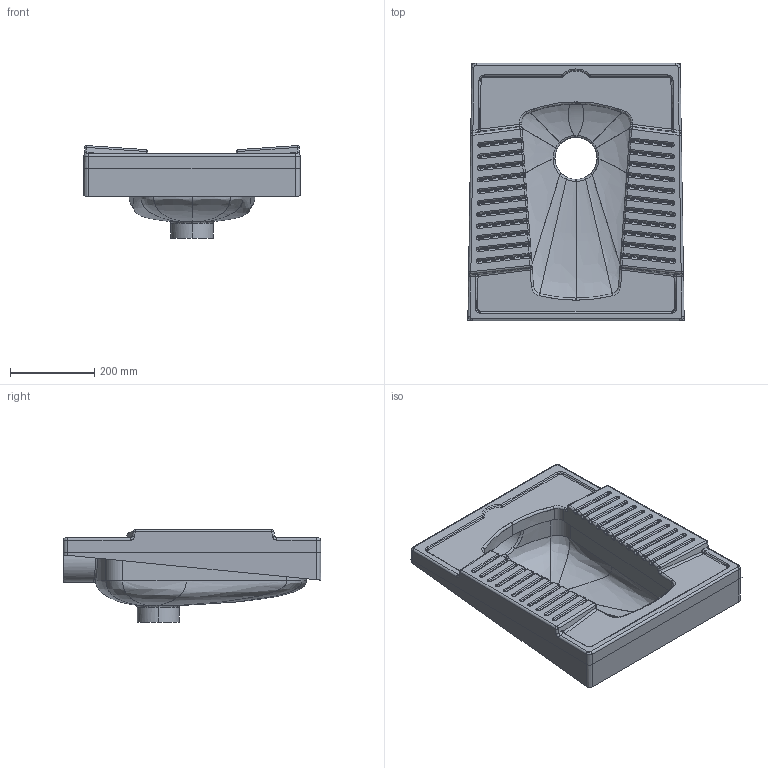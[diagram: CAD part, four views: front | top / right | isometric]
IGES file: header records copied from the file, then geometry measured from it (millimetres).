
Start section: START RECORD GO HERE.
Global section: file name: 4002_3D.igs; native system: DASSAULT SYSTEMES CATIA V5 R19 - www.3ds.com; preprocessor: CATIA Version 5 Release 19 SP 5 ; author: gioge; organization: LAPTOP-G94B6G74; date: 20201024.092343; units: millimetre
Bounding box: 513 x 610 x 219.63 mm (x, y, z)
Surface area: 902500 mm2 (no closed solid volume)
Topology: 0 solids, 0 shells, 518 faces, 2539 edges, 2490 vertices
Faces by surface type: revolution 253, bspline 242, plane 15, extrusion 8
